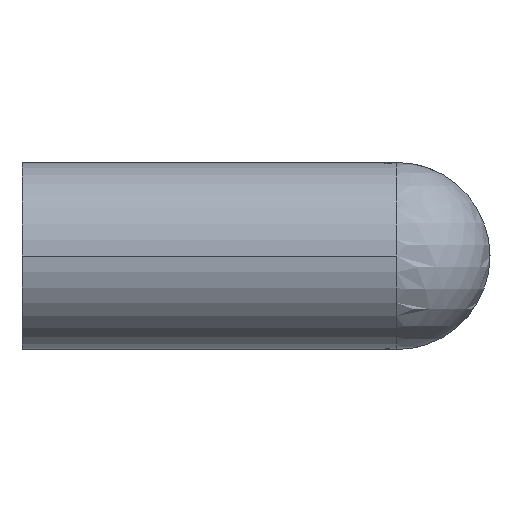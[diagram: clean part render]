
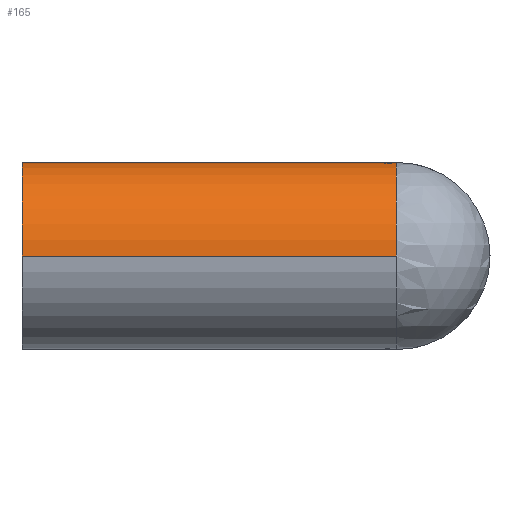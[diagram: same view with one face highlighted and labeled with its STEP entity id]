
A CAD part, left-side view. The second image highlights one B-rep face of the part: STEP entity #165.
In plain terms, the highlighted cylindrical face has radius 6 mm (diameter 12 mm), a partial arc.
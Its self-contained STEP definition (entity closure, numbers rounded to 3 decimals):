
#95 = VERTEX_POINT( '', #249 );
#103 = EDGE_CURVE( '', #219, #119, #258, .T. );
#119 = VERTEX_POINT( '', #281 );
#135 = EDGE_CURVE( '', #95, #209, #297, .T. );
#165 = ADVANCED_FACE( '', ( #333 ), #334, .T. );
#173 = EDGE_CURVE( '', #209, #183, #342, .T. );
#179 = EDGE_CURVE( '', #95, #219, #348, .T. );
#183 = VERTEX_POINT( '', #353 );
#197 = EDGE_CURVE( '', #183, #119, #367, .T. );
#209 = VERTEX_POINT( '', #380 );
#219 = VERTEX_POINT( '', #391 );
#249 = CARTESIAN_POINT( '', ( -6., -24., 0. ) );
#258 = ELLIPSE( '', #425, 8.485, 6. );
#281 = CARTESIAN_POINT( '', ( 6., -18., 0. ) );
#297 = LINE( '', #472, #473 );
#333 = FACE_OUTER_BOUND( '', #514, .T. );
#334 = CYLINDRICAL_SURFACE( '', #515, 6. );
#342 = CIRCLE( '', #528, 6. );
#348 = CIRCLE( '', #537, 6. );
#353 = CARTESIAN_POINT( '', ( 6., 0., 0. ) );
#367 = LINE( '', #563, #564 );
#380 = CARTESIAN_POINT( '', ( -6., 0., 0. ) );
#391 = CARTESIAN_POINT( '', ( 0., -24., 6. ) );
#425 = AXIS2_PLACEMENT_3D( '', #621, #622, #623 );
#472 = CARTESIAN_POINT( '', ( -6., 0., 0. ) );
#473 = VECTOR( '', #688, 1. );
#514 = EDGE_LOOP( '', ( #741, #742, #743, #744, #745 ) );
#515 = AXIS2_PLACEMENT_3D( '', #746, #747, #748 );
#528 = AXIS2_PLACEMENT_3D( '', #751, #752, #753 );
#537 = AXIS2_PLACEMENT_3D( '', #760, #761, #762 );
#563 = CARTESIAN_POINT( '', ( 6., 0., 0. ) );
#564 = VECTOR( '', #783, 1. );
#621 = CARTESIAN_POINT( '', ( 0., -24., 0. ) );
#622 = DIRECTION( '', ( -0.707, 0.707, 0. ) );
#623 = DIRECTION( '', ( 0.707, 0.707, 0. ) );
#688 = DIRECTION( '', ( 0., 1., 0. ) );
#741 = ORIENTED_EDGE( '', *, *, #197, .F. );
#742 = ORIENTED_EDGE( '', *, *, #173, .F. );
#743 = ORIENTED_EDGE( '', *, *, #135, .F. );
#744 = ORIENTED_EDGE( '', *, *, #179, .T. );
#745 = ORIENTED_EDGE( '', *, *, #103, .T. );
#746 = CARTESIAN_POINT( '', ( 0., 0., 0. ) );
#747 = DIRECTION( '', ( 0., 1., 0. ) );
#748 = DIRECTION( '', ( 1., 0., 0. ) );
#751 = CARTESIAN_POINT( '', ( 0., 0., 0. ) );
#752 = DIRECTION( '', ( 0., 1., 0. ) );
#753 = DIRECTION( '', ( 1., 0., 0. ) );
#760 = CARTESIAN_POINT( '', ( 0., -24., 0. ) );
#761 = DIRECTION( '', ( 0., 1., 0. ) );
#762 = DIRECTION( '', ( 1., 0., 0. ) );
#783 = DIRECTION( '', ( 0., -1., 0. ) );
